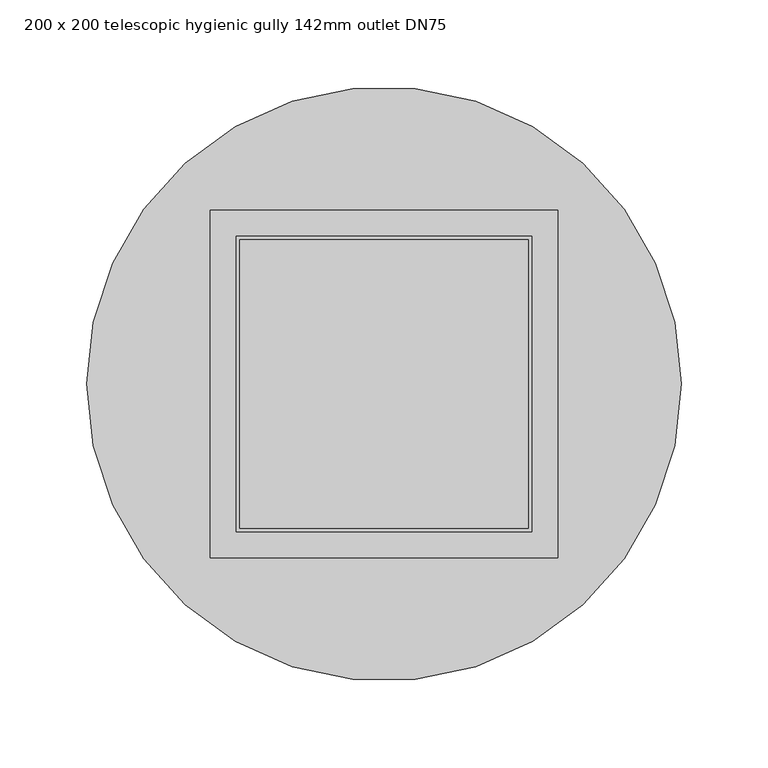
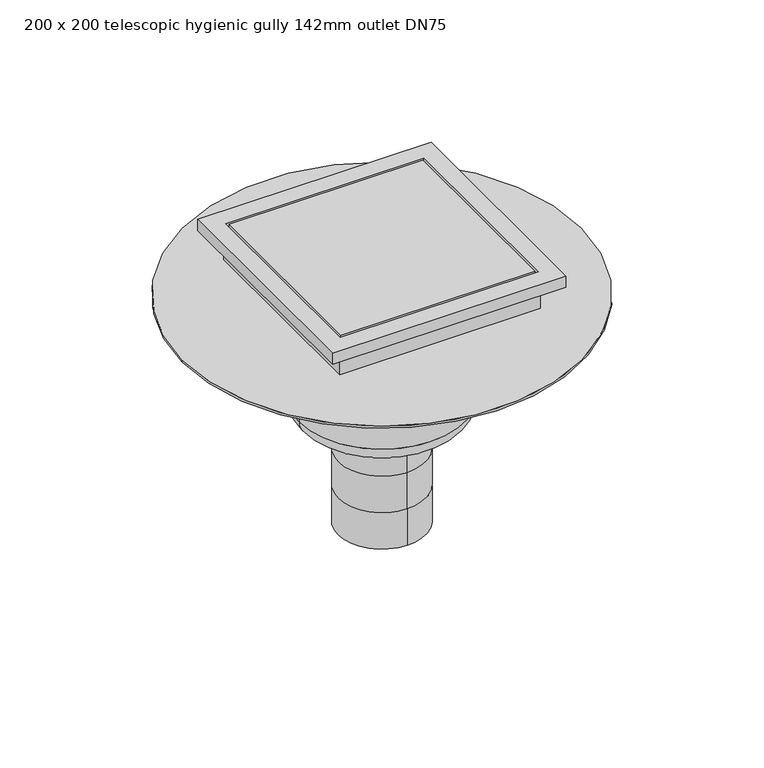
"""IFC4 building model written with IfcOpenShell, lengths in millimetres: sanitary terminal geometry, PF_ST_UN_Siphon telescopics eskis hygiene first_ACO : 200 x 200 telescopic hygienic gully 142mm outlet DN75."""

from ifc_helpers import new_model, si_unit, point, frame, origin, origin_2d, place, context, project, spatial, polyline, circle_curve, ellipse_curve, trimmed, segment, composite_curve, outline, extrude, faceted_brep, source, transform, mapped, element, save
from ifc_brep_helpers import plane_surface, cylinder_surface, revolved_surface, advanced_brep


def sanitary_terminal_200_x_200_telescopic_hygienic_gully_142mm_9aa8e6d9(model_context):
    return source(origin(), model_context, "Body", "SolidModel", [
        extrude(outline(composite_curve([segment(trimmed(circle_curve(origin_2d(), 62.5), [point((-62.5, 0.0))], [point((62.5, 0.0))], False, "CARTESIAN"), True, "CONTINUOUS"), segment(trimmed(circle_curve(origin_2d(), 62.5), [point((62.5, 0.0))], [point((-62.5, 0.0))], False, "CARTESIAN"), True, "CONTINUOUS")], self_intersect=False)), frame((0.0, 0.0, -198.0), z_axis=(0.0, 0.0, 1.0), x_axis=(1.0, 0.0, 0.0)), (0.0, 0.0, 1.0), 45.0),
        faceted_brep([(100.0, 100.0, -130.0), (100.0, 100.0, -120.0), (100.0, -100.0, -120.0), (100.0, -100.0, -130.0), (86.0, 86.0, -153.0), (86.0, 86.0, -130.0), (86.0, -86.0, -130.0), (86.0, -86.0, -153.0), (85.0, -85.0, -120.0), (85.0, 85.0, -120.0), (85.0, 85.0, -143.0), (85.0, -85.0, -143.0), (-100.0, -100.0, -120.0), (-100.0, -100.0, -130.0), (-86.0, -86.0, -130.0), (-86.0, -86.0, -153.0), (-85.0, -85.0, -120.0), (-85.0, -85.0, -143.0), (-100.0, 100.0, -120.0), (-100.0, 100.0, -130.0), (-86.0, 86.0, -130.0), (-86.0, 86.0, -153.0), (-85.0, 85.0, -120.0), (-85.0, 85.0, -143.0)], [[[0, 1, 2, 3]], [[4, 5, 6, 7]], [[8, 9, 10, 11]], [[3, 2, 12, 13]], [[7, 6, 14, 15]], [[16, 8, 11, 17]], [[13, 12, 18, 19]], [[15, 14, 20, 21]], [[22, 16, 17, 23]], [[2, 1, 18, 12], [9, 8, 16, 22]], [[1, 0, 19, 18]], [[0, 3, 13, 19], [6, 5, 20, 14]], [[5, 4, 21, 20]], [[4, 7, 15, 21]], [[9, 22, 23, 10]], [[11, 10, 23, 17]]]),
        extrude(outline(polyline([(83.0, 83.0), (83.0, -83.0), (-83.0, -83.0), (-83.0, 83.0), (83.0, 83.0)])), frame((0.0, 0.0, -143.0), z_axis=(0.0, 0.0, 1.0), x_axis=(1.0, 0.0, 0.0)), (0.0, 0.0, 1.0), 23.0),
        advanced_brep(
        [(0.0, -37.5, -367.0), (0.0, 37.5, -367.0), (0.0, -37.5, -334.0), (0.0, 37.5, -334.0), (0.0, -37.5, -301.0), (0.0, 37.5, -301.0), (0.0, 37.5, -268.0), (37.5, 0.0, -268.0), (0.0, -37.5, -268.0), (-37.5, 0.0, -268.0), (71.0, 0.0, -253.0), (-71.0, 0.0, -253.0), (-71.0, 0.0, -164.0), (71.0, 0.0, -164.0), (56.0, 0.0, -268.0), (-56.0, 0.0, -268.0), (-171.0, 0.0, -164.0), (171.0, 0.0, -164.0), (-171.0, 0.0, -162.0), (171.0, 0.0, -162.0)],
        [
            (0, 1, circle_curve(frame((0.0, 0.0, -367.0), z_axis=(0.0, 0.0, -1.0), x_axis=(0.0, 1.0, 0.0)), 37.5)),
            (1, 0, circle_curve(frame((0.0, 0.0, -367.0), z_axis=(0.0, 0.0, -1.0), x_axis=(0.0, 1.0, 0.0)), 37.5)),
            (0, 2),
            (2, 3, circle_curve(frame((0.0, 0.0, -334.0), z_axis=(0.0, 0.0, -1.0), x_axis=(0.0, 1.0, 0.0)), 37.5)),
            (3, 1),
            (3, 2, circle_curve(frame((0.0, 0.0, -334.0), z_axis=(0.0, 0.0, -1.0), x_axis=(0.0, 1.0, 0.0)), 37.5)),
            (4, 2),
            (3, 5),
            (5, 4, circle_curve(frame((0.0, 0.0, -301.0), z_axis=(0.0, 0.0, -1.0), x_axis=(1.0, 0.0, 0.0)), 37.5)),
            (4, 5, circle_curve(frame((0.0, 0.0, -301.0), z_axis=(0.0, 0.0, -1.0), x_axis=(-1.0, 0.0, 0.0)), 37.5)),
            (5, 6),
            (6, 7, circle_curve(frame((0.0, 0.0, -268.0), z_axis=(0.0, 0.0, -1.0), x_axis=(0.0, 1.0, 0.0)), 37.5)),
            (7, 8, circle_curve(frame((0.0, 0.0, -268.0), z_axis=(0.0, 0.0, -1.0), x_axis=(0.0, 1.0, 0.0)), 37.5)),
            (8, 4),
            (8, 9, circle_curve(frame((0.0, 0.0, -268.0), z_axis=(0.0, 0.0, -1.0), x_axis=(0.0, 1.0, 0.0)), 37.5)),
            (9, 6, circle_curve(frame((0.0, 0.0, -268.0), z_axis=(0.0, 0.0, -1.0), x_axis=(0.0, 1.0, 0.0)), 37.5)),
            (10, 11, circle_curve(frame((0.0, 0.0, -253.0), z_axis=(0.0, 0.0, 1.0), x_axis=(-1.0, 0.0, 0.0)), 71.0)),
            (11, 12),
            (12, 13, circle_curve(frame((0.0, 0.0, -164.0), z_axis=(0.0, 0.0, -1.0), x_axis=(-1.0, 0.0, 0.0)), 71.0)),
            (13, 10),
            (11, 10, circle_curve(frame((0.0, 0.0, -253.0), z_axis=(0.0, 0.0, 1.0), x_axis=(-1.0, 0.0, 0.0)), 71.0)),
            (13, 12, circle_curve(frame((0.0, 0.0, -164.0), z_axis=(0.0, 0.0, -1.0), x_axis=(-1.0, 0.0, 0.0)), 71.0)),
            (10, 14, circle_curve(frame((56.0, 0.0, -253.0), z_axis=(0.0, 1.0, 0.0), x_axis=(-1.0, 0.0, 0.0)), 15.0)),
            (14, 15, circle_curve(frame((0.0, 0.0, -268.0), z_axis=(0.0, 0.0, 1.0), x_axis=(-1.0, 0.0, 0.0)), 56.0)),
            (15, 11, circle_curve(frame((-56.0, 0.0, -253.0), z_axis=(0.0, 1.0, 0.0), x_axis=(1.0, 0.0, 0.0)), 15.0)),
            (15, 14, circle_curve(frame((0.0, 0.0, -268.0), z_axis=(0.0, 0.0, 1.0), x_axis=(-1.0, 0.0, 0.0)), 56.0)),
            (14, 7),
            (9, 15),
            (16, 17, circle_curve(frame((0.0, 0.0, -164.0), z_axis=(0.0, 0.0, -1.0), x_axis=(1.0, 0.0, 0.0)), 171.0)),
            (17, 16, circle_curve(frame((0.0, 0.0, -164.0), z_axis=(0.0, 0.0, -1.0), x_axis=(1.0, 0.0, 0.0)), 171.0)),
            (18, 19, circle_curve(frame((0.0, 0.0, -162.0), z_axis=(0.0, 0.0, 1.0), x_axis=(1.0, 0.0, 0.0)), 171.0)),
            (19, 18, circle_curve(frame((0.0, 0.0, -162.0), z_axis=(0.0, 0.0, 1.0), x_axis=(1.0, 0.0, 0.0)), 171.0)),
            (17, 19),
            (18, 16),
        ],
        [
            plane_surface(frame((0.0, 37.5, -367.0), z_axis=(0.0, 0.0, -1.0), x_axis=(1.0, 0.0, 0.0))),
            cylinder_surface(frame((0.0, 0.0, -334.0), z_axis=(0.0, 0.0, -1.0), x_axis=(0.0, 1.0, 0.0)), 37.5),
            cylinder_surface(frame((0.0, 0.0, -301.0), z_axis=(0.0, 0.0, -1.0), x_axis=(1.0, 0.0, 0.0)), 37.5),
            cylinder_surface(frame((0.0, 0.0, -301.0), z_axis=(0.0, 0.0, -1.0), x_axis=(-1.0, 0.0, 0.0)), 37.5),
            cylinder_surface(frame((0.0, 0.0, -268.0), z_axis=(0.0, 0.0, -1.0), x_axis=(0.0, 1.0, 0.0)), 37.5),
            cylinder_surface(frame((0.0, 0.0, -102.0), z_axis=(0.0, 0.0, -1.0), x_axis=(-1.0, 0.0, 0.0)), 71.0),
            revolved_surface(trimmed(ellipse_curve(frame((-56.0, 0.0, -253.0), z_axis=(0.0, -1.0, 0.0), x_axis=(1.0, 0.0, 0.0)), 15.0, 15.0), [point((-71.0, 0.0, -253.0))], [point((-56.0, 0.0, -268.0))], True, "CARTESIAN"), (0.0, 0.0, -102.0), (0.0, 0.0, -1.0)),
            plane_surface(frame((0.0, 0.0, -268.0), z_axis=(0.0, 0.0, -1.0), x_axis=(-1.0, 0.0, 0.0))),
            plane_surface(frame((171.0, 0.0, -164.0), z_axis=(0.0, 0.0, -1.0), x_axis=(0.0, -1.0, 0.0))),
            plane_surface(frame((171.0, 0.0, -162.0), z_axis=(0.0, 0.0, 1.0), x_axis=(0.0, 1.0, 0.0))),
            cylinder_surface(frame((0.0, 0.0, -164.0), z_axis=(0.0, 0.0, 1.0), x_axis=(1.0, 0.0, 0.0)), 171.0),
        ],
        [
            (0, [[1, 2]]),
            (1, [[-1, 3, 4, 5]]),
            (1, [[-2, -5, 6, -3]]),
            (2, [[7, -6, 8, 9]]),
            (3, [[-7, 10, -8, -4]]),
            (4, [[11, 12, 13, 14, -9]]),
            (4, [[-11, -10, -14, 15, 16]]),
            (5, [[17, 18, 19, 20]]),
            (5, [[-18, 21, -20, 22]]),
            (6, [[-17, 23, 24, 25]]),
            (6, [[-21, -25, 26, -23]]),
            (7, [[-24, 27, -12, -16, 28]]),
            (7, [[-26, -28, -15, -13, -27]]),
            (8, [[29, 30], [-19, -22]]),
            (9, [[31, 32]]),
            (10, [[-30, 33, -31, 34]]),
            (10, [[-29, -34, -32, -33]]),
        ],
    ),
    ])


if __name__ == "__main__":
    model = new_model("IFC4")
    model_context = context("Model", 3, world=origin())
    ifc_project = project(units=[si_unit("LENGTHUNIT", "METRE", prefix="MILLI")], contexts=[model_context])
    site = spatial("IfcSite", under=ifc_project)
    building = spatial("IfcBuilding", under=site)
    placement = place(None, origin())
    sanitary_terminal_200_x_200_telescopic_hygienic_gully_142mm_shape = sanitary_terminal_200_x_200_telescopic_hygienic_gully_142mm_9aa8e6d9(model_context)
    element("IfcSanitaryTerminal", 1, ObjectType="PF_ST_UN_Siphon telescopics eskis hygiene first_ACO : 200 x 200 telescopic hygienic gully 142mm outlet DN75", at=placement, inside=building, context=model_context, shape_type="MappedRepresentation", body=[
        mapped(sanitary_terminal_200_x_200_telescopic_hygienic_gully_142mm_shape, transform((0.0, 0.0, 0.0), x_axis=(1.0, 0.0, 0.0), y_axis=(0.0, 1.0, 0.0), z_axis=(0.0, 0.0, 1.0))),
    ])
    save(model, "model.ifc")
